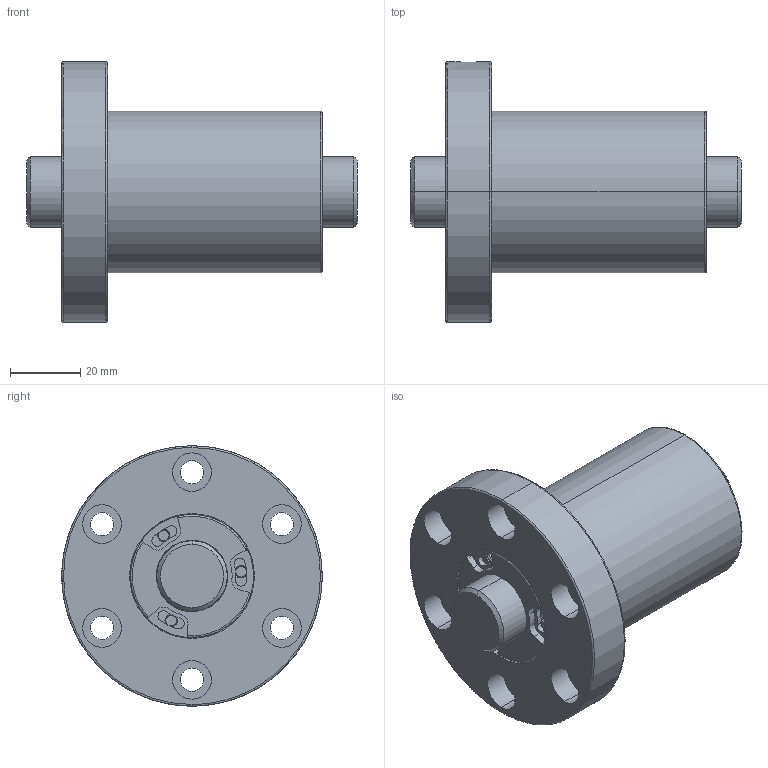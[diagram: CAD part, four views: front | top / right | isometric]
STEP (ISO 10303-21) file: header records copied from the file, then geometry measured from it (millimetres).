
FILE_DESCRIPTION (( 'STEP AP203' ), '1' );
FILE_NAME ('SFVSR02020B1N-C.STEP', '2020-06-17T05:07:17', ( '' ), ( '' ), 'SwSTEP 2.0', 'SolidWorks 2013', '' );
FILE_SCHEMA (( 'CONFIG_CONTROL_DESIGN' ));
Length unit declared in the file: millimetre
Products named in the file (1): SFVSR02020B1N-C
Bounding box: 94 x 74 x 74 mm (x, y, z)
Volume: 152653.2 mm3; surface area: 35737.3 mm2
Topology: 2 solids, 2 shells, 250 faces, 614 edges, 394 vertices
Faces by surface type: cylinder 144, plane 76, cone 16, bspline 14
Entity records: 8408 total; most frequent: CARTESIAN_POINT 2180, DIRECTION 1420, ORIENTED_EDGE 1228, EDGE_CURVE 614, AXIS2_PLACEMENT_3D 607, VERTEX_POINT 394, CIRCLE 370, EDGE_LOOP 294
